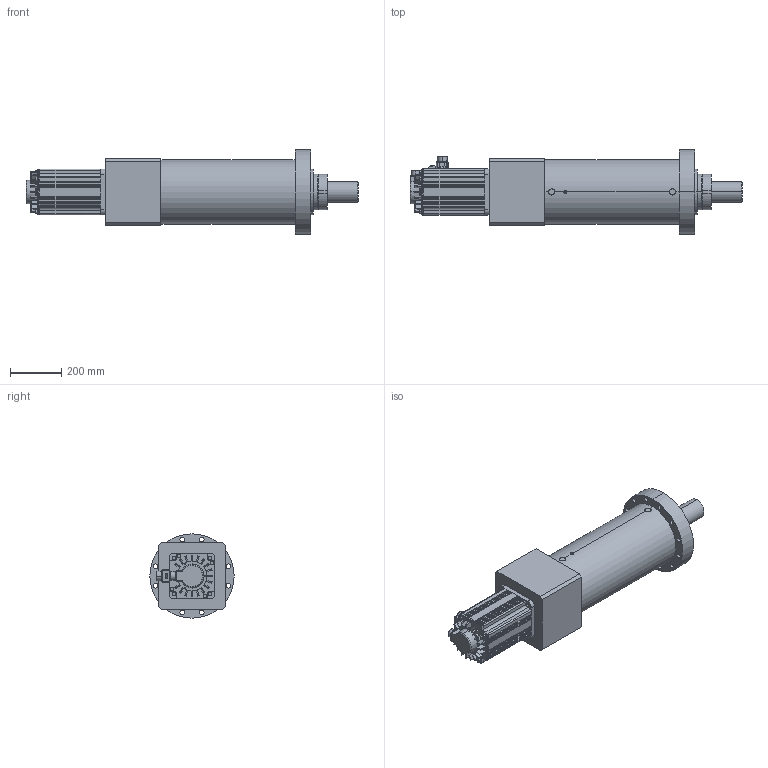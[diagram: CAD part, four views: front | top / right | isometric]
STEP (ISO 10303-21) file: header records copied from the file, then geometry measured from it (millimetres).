
FILE_DESCRIPTION (( 'STEP AP203' ), '1' );
FILE_NAME ('S9眻盄ヶ楊擘假蚾.STEP', '2024-05-27T05:46:02', ( '' ), ( '' ), 'SwSTEP 2.0', 'SolidWorks 2018', '' );
FILE_SCHEMA (( 'CONFIG_CONTROL_DESIGN' ));
Length unit declared in the file: millimetre
Products named in the file (3): ECMA-LX1855S3-180框號系列機種-5.5KW-400V高慣量系列; S9眻盄ヶ楊擘假蚾; S9眻盄ヶ楊擘
Assembly tree (2 placements, depth 2):
  S9眻盄ヶ楊擘假蚾
    S9眻盄ヶ楊擘
    ECMA-LX1855S3-180框號系列機種-5.5KW-400V高慣量系列
Bounding box: 1299.4 x 330 x 330 mm (x, y, z)
Volume: 55303077.2 mm3; surface area: 1446519.9 mm2
Topology: 2 solids, 4 shells, 744 faces, 1746 edges, 1075 vertices
Faces by surface type: plane 363, cylinder 280, cone 50, bspline 31, torus 20
Entity records: 24009 total; most frequent: CARTESIAN_POINT 6854, ORIENTED_EDGE 3488, DIRECTION 3458, EDGE_CURVE 1744, AXIS2_PLACEMENT_3D 1251, VERTEX_POINT 1075, VECTOR 956, LINE 956
